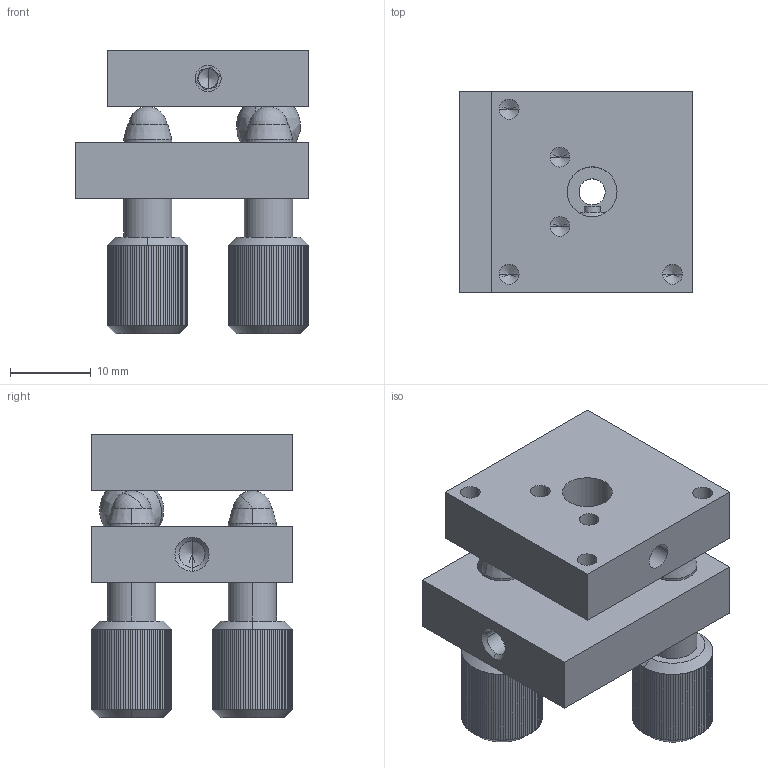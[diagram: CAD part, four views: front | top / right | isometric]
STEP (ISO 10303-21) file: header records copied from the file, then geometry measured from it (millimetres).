
FILE_DESCRIPTION (( 'STEP AP203' ), '1' );
FILE_NAME ('5OM111.STEP', '2011-03-09T11:55:09', ( 'ramunas' ), ( '' ), 'SwSTEP 2.0', 'SolidWorks 2003240', '' );
FILE_SCHEMA (( 'CONFIG_CONTROL_DESIGN' ));
Length unit declared in the file: millimetre
Products named in the file (1): 5OM111
Bounding box: 29 x 25 x 35.2 mm (x, y, z)
Volume: 11374.9 mm3; surface area: 5853.2 mm2
Topology: 1 solids, 1 shells, 736 faces, 1738 edges, 1004 vertices
Faces by surface type: plane 657, cylinder 39, cone 34, bspline 6
Entity records: 25817 total; most frequent: CARTESIAN_POINT 8785, DIRECTION 3675, ORIENTED_EDGE 3432, EDGE_CURVE 1716, AXIS2_PLACEMENT_3D 1261, VECTOR 1153, LINE 1153, VERTEX_POINT 1004
